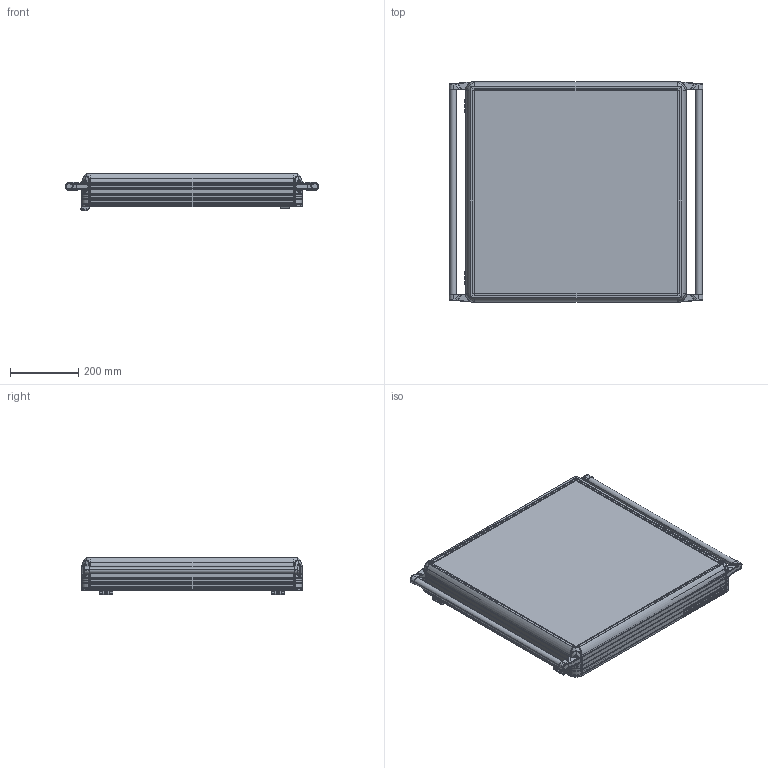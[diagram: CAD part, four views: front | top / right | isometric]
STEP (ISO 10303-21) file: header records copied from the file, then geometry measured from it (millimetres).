
FILE_DESCRIPTION (( 'STEP AP214' ), '1' );
FILE_NAME ('9000-0216.STEP', '2022-09-01T06:40:49', ( '' ), ( '' ), 'SwSTEP 2.0', 'SolidWorks 2022', '' );
FILE_SCHEMA (( 'AUTOMOTIVE_DESIGN' ));
Length unit declared in the file: millimetre
Products named in the file (7): 9000-0216; ECO9000-0100(SOL); boru_625; HPECO-090-001-295_595; ECO9000-0100(SAÐ); 600X600; ARKA_KAPAK_600X600
Assembly tree (12 placements, depth 2):
  9000-0216
    600X600
    ARKA_KAPAK_600X600
    boru_625  x2
    ECO9000-0100(SAÐ)  x2
    ECO9000-0100(SOL)  x2
    HPECO-090-001-295_595  x4
Bounding box: 744.57 x 647 x 109.16 mm (x, y, z)
Volume: 3750051.3 mm3; surface area: 3009933.5 mm2
Topology: 22 solids, 72 shells, 7149 faces, 19120 edges, 11870 vertices
Faces by surface type: plane 2807, cylinder 2096, bspline 1270, cone 590, torus 332, sphere 54
Entity records: 207835 total; most frequent: CARTESIAN_POINT 55969, ORIENTED_EDGE 24066, DIRECTION 20116, EDGE_CURVE 12033, VERTEX_POINT 7474, AXIS2_PLACEMENT_3D 7348, LINE 5420, VECTOR 5420
